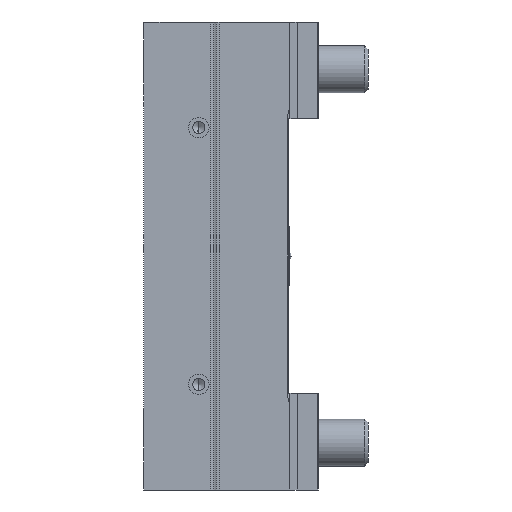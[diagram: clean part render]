
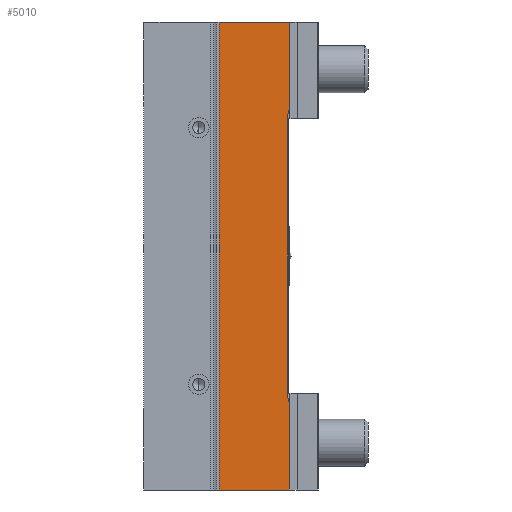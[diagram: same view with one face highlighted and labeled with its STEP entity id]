
A CAD part, left-side view. The second image highlights one B-rep face of the part: STEP entity #5010.
In plain terms, the highlighted planar face has unit normal (-1, 0, 0).
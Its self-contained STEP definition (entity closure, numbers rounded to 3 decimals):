
#129 = ORIENTED_EDGE ( 'NONE', *, *, #2911, .T. ) ;
#175 = VECTOR ( 'NONE', #5699, 1000. ) ;
#295 = EDGE_LOOP ( 'NONE', ( #4331, #2763, #5461, #1038, #129, #3438, #3731, #4727 ) ) ;
#322 = CARTESIAN_POINT ( 'NONE',  ( -25., 10.6, 47. ) ) ;
#400 = VERTEX_POINT ( 'NONE', #3245 ) ;
#638 = LINE ( 'NONE', #4777, #5470 ) ;
#655 = CARTESIAN_POINT ( 'NONE',  ( -25., 10.6, 47. ) ) ;
#717 = CARTESIAN_POINT ( 'NONE',  ( -25., 34., 80.2 ) ) ;
#769 = CARTESIAN_POINT ( 'NONE',  ( -25., 10., 80.2 ) ) ;
#942 = EDGE_CURVE ( 'NONE', #400, #4364, #1155, .T. ) ;
#1038 = ORIENTED_EDGE ( 'NONE', *, *, #5823, .T. ) ;
#1040 = CARTESIAN_POINT ( 'NONE',  ( -25., 10.399, -49.174 ) ) ;
#1062 = CARTESIAN_POINT ( 'NONE',  ( -25., 10., 50.229 ) ) ;
#1155 = LINE ( 'NONE', #2004, #175 ) ;
#1248 = DIRECTION ( 'NONE',  ( 0., 0., -1. ) ) ;
#1250 = VERTEX_POINT ( 'NONE', #3406 ) ;
#1452 = PLANE ( 'NONE',  #3199 ) ;
#1634 = EDGE_CURVE ( 'NONE', #400, #3335, #4849, .T. ) ;
#1994 = CARTESIAN_POINT ( 'NONE',  ( -25., 10.6, 48.092 ) ) ;
#2004 = CARTESIAN_POINT ( 'NONE',  ( -25., 10.6, 47. ) ) ;
#2007 = CARTESIAN_POINT ( 'NONE',  ( -25., 10.399, 49.174 ) ) ;
#2023 = LINE ( 'NONE', #2217, #3203 ) ;
#2131 = DIRECTION ( 'NONE',  ( 0., 0., -1. ) ) ;
#2191 = CARTESIAN_POINT ( 'NONE',  ( -25., 10., -80.2 ) ) ;
#2217 = CARTESIAN_POINT ( 'NONE',  ( -25., 10., 80.2 ) ) ;
#2271 = LINE ( 'NONE', #3138, #3341 ) ;
#2323 = DIRECTION ( 'NONE',  ( 0., 1., 0. ) ) ;
#2415 = CARTESIAN_POINT ( 'NONE',  ( -25., 10.6, -48.092 ) ) ;
#2763 = ORIENTED_EDGE ( 'NONE', *, *, #3621, .F. ) ;
#2793 = VERTEX_POINT ( 'NONE', #1062 ) ;
#2911 = EDGE_CURVE ( 'NONE', #5731, #5320, #5696, .T. ) ;
#2948 = LINE ( 'NONE', #717, #4102 ) ;
#2981 = CARTESIAN_POINT ( 'NONE',  ( -25., 34., -80.2 ) ) ;
#3089 = DIRECTION ( 'NONE',  ( 0., 0., -1. ) ) ;
#3138 = CARTESIAN_POINT ( 'NONE',  ( -25., 10., 80.2 ) ) ;
#3199 = AXIS2_PLACEMENT_3D ( 'NONE', #4144, #5036, #2323 ) ;
#3203 = VECTOR ( 'NONE', #3089, 1000. ) ;
#3245 = CARTESIAN_POINT ( 'NONE',  ( -25., 10.6, -47. ) ) ;
#3312 = CARTESIAN_POINT ( 'NONE',  ( -25., 10.6, -47. ) ) ;
#3335 = VERTEX_POINT ( 'NONE', #5104 ) ;
#3341 = VECTOR ( 'NONE', #1248, 1000. ) ;
#3391 = FACE_OUTER_BOUND ( 'NONE', #295, .T. ) ;
#3392 = EDGE_CURVE ( 'NONE', #2793, #4364, #4348, .T. ) ;
#3406 = CARTESIAN_POINT ( 'NONE',  ( -25., 34., 80.2 ) ) ;
#3438 = ORIENTED_EDGE ( 'NONE', *, *, #3610, .F. ) ;
#3475 = DIRECTION ( 'NONE',  ( 0., -1., 0. ) ) ;
#3520 = EDGE_CURVE ( 'NONE', #1250, #4390, #638, .T. ) ;
#3610 = EDGE_CURVE ( 'NONE', #3335, #5320, #2023, .T. ) ;
#3621 = EDGE_CURVE ( 'NONE', #4390, #2793, #2271, .T. ) ;
#3731 = ORIENTED_EDGE ( 'NONE', *, *, #1634, .F. ) ;
#3784 = CARTESIAN_POINT ( 'NONE',  ( -25., 10., -50.229 ) ) ;
#3794 = CARTESIAN_POINT ( 'NONE',  ( -25., 10., 50.229 ) ) ;
#3936 = DIRECTION ( 'NONE',  ( 0., -1., 0. ) ) ;
#4102 = VECTOR ( 'NONE', #2131, 1000. ) ;
#4144 = CARTESIAN_POINT ( 'NONE',  ( -25., 34., 80.2 ) ) ;
#4331 = ORIENTED_EDGE ( 'NONE', *, *, #3392, .F. ) ;
#4348 =( BOUNDED_CURVE ( )  B_SPLINE_CURVE ( 3, ( #3794, #2007, #1994, #655 ),
 .UNSPECIFIED., .F., .T. ) 
 B_SPLINE_CURVE_WITH_KNOTS ( ( 4, 4 ),
 ( 6.022, 6.283 ),
 .UNSPECIFIED. ) 
 CURVE ( )  GEOMETRIC_REPRESENTATION_ITEM ( )  RATIONAL_B_SPLINE_CURVE ( ( 1., 0.994, 0.994, 1. ) ) 
 REPRESENTATION_ITEM ( '' )  );
#4364 = VERTEX_POINT ( 'NONE', #322 ) ;
#4390 = VERTEX_POINT ( 'NONE', #769 ) ;
#4727 = ORIENTED_EDGE ( 'NONE', *, *, #942, .T. ) ;
#4777 = CARTESIAN_POINT ( 'NONE',  ( -25., 34., 80.2 ) ) ;
#4849 =( BOUNDED_CURVE ( )  B_SPLINE_CURVE ( 3, ( #3312, #2415, #1040, #3784 ),
 .UNSPECIFIED., .F., .T. ) 
 B_SPLINE_CURVE_WITH_KNOTS ( ( 4, 4 ),
 ( 0., 0.261 ),
 .UNSPECIFIED. ) 
 CURVE ( )  GEOMETRIC_REPRESENTATION_ITEM ( )  RATIONAL_B_SPLINE_CURVE ( ( 1., 0.994, 0.994, 1. ) ) 
 REPRESENTATION_ITEM ( '' )  );
#4900 = VECTOR ( 'NONE', #3936, 1000. ) ;
#5010 = ADVANCED_FACE ( 'NONE', ( #3391 ), #1452, .F. ) ;
#5036 = DIRECTION ( 'NONE',  ( 1., 0., 0. ) ) ;
#5104 = CARTESIAN_POINT ( 'NONE',  ( -25., 10., -50.229 ) ) ;
#5320 = VERTEX_POINT ( 'NONE', #2191 ) ;
#5461 = ORIENTED_EDGE ( 'NONE', *, *, #3520, .F. ) ;
#5470 = VECTOR ( 'NONE', #3475, 1000. ) ;
#5691 = CARTESIAN_POINT ( 'NONE',  ( -25., 34., -80.2 ) ) ;
#5696 = LINE ( 'NONE', #2981, #4900 ) ;
#5699 = DIRECTION ( 'NONE',  ( 0., 0., 1. ) ) ;
#5731 = VERTEX_POINT ( 'NONE', #5691 ) ;
#5823 = EDGE_CURVE ( 'NONE', #1250, #5731, #2948, .T. ) ;
